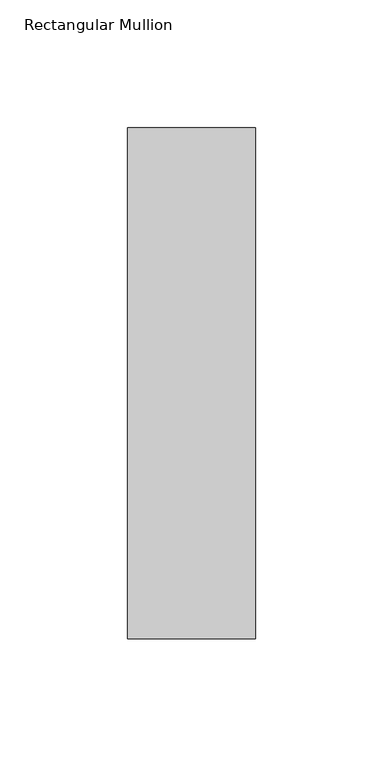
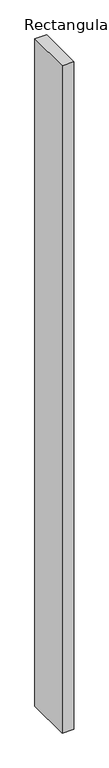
"""IFC4 building model written with IfcOpenShell, lengths in millimetres: member geometry, Rectangular Mullion : Batten_Aluminium_Modinex_AluBatten_50x200_AfricanEbony."""

from ifc_helpers import new_model, si_unit, frame, origin, place, context, project, spatial, polyline, outline, extrude, source, transform, mapped, element, save


def rectangular_mullion_afeb8ef8(model_context):
    return source(origin(), model_context, "Body", "SweptSolid", [
        extrude(outline(polyline([(25.0, 200.0), (25.0, 0.0), (-25.0, 0.0), (-25.0, 200.0), (25.0, 200.0)])), frame((0.0, 0.0, -3000.0), z_axis=(0.0, 0.0, 1.0), x_axis=(1.0, 0.0, 0.0)), (0.0, 0.0, 1.0), 3000.0),
    ])


if __name__ == "__main__":
    model = new_model("IFC4")
    model_context = context("Model", 3, world=origin())
    ifc_project = project(units=[si_unit("LENGTHUNIT", "METRE", prefix="MILLI")], contexts=[model_context])
    site = spatial("IfcSite", under=ifc_project)
    building = spatial("IfcBuilding", under=site)
    placement = place(None, origin())
    rectangular_mullion_shape = rectangular_mullion_afeb8ef8(model_context)
    element("IfcMember", 1, ObjectType="Rectangular Mullion : Batten_Aluminium_Modinex_AluBatten_50x200_AfricanEbony", at=placement, inside=building, context=model_context, shape_type="MappedRepresentation", body=[
        mapped(rectangular_mullion_shape, transform((0.0, 0.0, 0.0), x_axis=(1.0, 0.0, 0.0), y_axis=(0.0, 1.0, 0.0), z_axis=(0.0, 0.0, 1.0))),
    ])
    save(model, "model.ifc")
